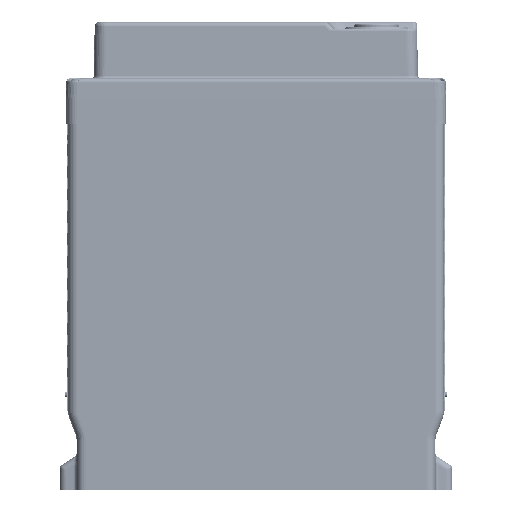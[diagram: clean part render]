
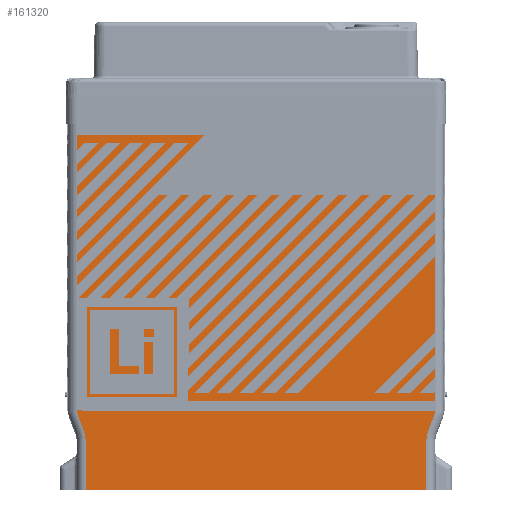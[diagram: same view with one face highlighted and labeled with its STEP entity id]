
A CAD part, left-side view. The second image highlights one B-rep face of the part: STEP entity #161320.
In plain terms, the highlighted planar face has unit normal (-1, 0, 0).
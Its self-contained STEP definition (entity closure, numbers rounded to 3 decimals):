
#125170=DIRECTION('',(0.,0.,-1.));
#125171=VECTOR('',#125170,127.378);
#125172=CARTESIAN_POINT('',(-130.,79.5,-2.));
#125173=LINE('',#125172,#125171);
#125184=DIRECTION('',(0.,-1.,0.));
#125185=VECTOR('',#125184,159.);
#125186=CARTESIAN_POINT('',(-130.,79.5,-2.));
#125187=LINE('',#125186,#125185);
#125191=CARTESIAN_POINT('',(-130.,-73.5,-129.378));
#125192=DIRECTION('',(1.,0.,0.));
#125193=DIRECTION('',(0.,-1.,0.));
#125194=AXIS2_PLACEMENT_3D('',#125191,#125192,#125193);
#125199=DIRECTION('',(0.,0.358,-0.934));
#125200=VECTOR('',#125199,7.221);
#125201=CARTESIAN_POINT('',(-130.,-79.101,-131.528));
#125202=LINE('',#125201,#125200);
#125206=CARTESIAN_POINT('',(-130.,-87.25,-142.39));
#125207=DIRECTION('',(-1.,0.,0.));
#125208=DIRECTION('',(0.,0.934,0.358));
#125209=AXIS2_PLACEMENT_3D('',#125206,#125207,#125208);
#125214=CARTESIAN_POINT('',(-130.,87.25,-142.39));
#125215=DIRECTION('',(-1.,0.,0.));
#125216=DIRECTION('',(0.,-1.,0.));
#125217=AXIS2_PLACEMENT_3D('',#125214,#125215,#125216);
#125222=DIRECTION('',(0.,0.358,0.934));
#125223=VECTOR('',#125222,7.221);
#125224=CARTESIAN_POINT('',(-130.,76.514,-138.269));
#125225=LINE('',#125224,#125223);
#125229=CARTESIAN_POINT('',(-130.,73.5,-129.378));
#125230=DIRECTION('',(1.,0.,0.));
#125231=DIRECTION('',(0.,0.934,-0.358));
#125232=AXIS2_PLACEMENT_3D('',#125229,#125230,#125231);
#125244=DIRECTION('',(0.,0.,1.));
#125245=VECTOR('',#125244,127.378);
#125246=CARTESIAN_POINT('',(-130.,-79.5,-129.378));
#125247=LINE('',#125246,#125245);
#125946=DIRECTION('',(0.,-1.,0.));
#125947=VECTOR('',#125946,151.5);
#125948=CARTESIAN_POINT('',(-130.,75.75,-164.5));
#125949=LINE('',#125948,#125947);
#128891=DIRECTION('',(0.,0.,-1.));
#128892=VECTOR('',#128891,22.11);
#128893=CARTESIAN_POINT('',(-130.,75.75,-142.39));
#128894=LINE('',#128893,#128892);
#128898=DIRECTION('',(0.,0.,1.));
#128899=VECTOR('',#128898,22.11);
#128900=CARTESIAN_POINT('',(-130.,-75.75,-164.5));
#128901=LINE('',#128900,#128899);
#147144=CARTESIAN_POINT('',(-130.,-79.5,-2.));
#147145=VERTEX_POINT('',#147144);
#147146=CARTESIAN_POINT('',(-130.,79.5,-2.));
#147147=VERTEX_POINT('',#147146);
#148844=CARTESIAN_POINT('',(-130.,79.5,-129.378));
#148845=VERTEX_POINT('',#148844);
#148846=CARTESIAN_POINT('',(-130.,79.101,-131.528));
#148847=VERTEX_POINT('',#148846);
#148848=CARTESIAN_POINT('',(-130.,-79.5,-129.378));
#148849=VERTEX_POINT('',#148848);
#148850=CARTESIAN_POINT('',(-130.,-79.101,-131.528));
#148851=VERTEX_POINT('',#148850);
#148852=CARTESIAN_POINT('',(-130.,-76.514,-138.269));
#148853=VERTEX_POINT('',#148852);
#148854=CARTESIAN_POINT('',(-130.,-75.75,-142.39));
#148855=VERTEX_POINT('',#148854);
#148856=CARTESIAN_POINT('',(-130.,-75.75,-164.5));
#148857=VERTEX_POINT('',#148856);
#148858=CARTESIAN_POINT('',(-130.,75.75,-164.5));
#148859=VERTEX_POINT('',#148858);
#148860=CARTESIAN_POINT('',(-130.,75.75,-142.39));
#148861=VERTEX_POINT('',#148860);
#148862=CARTESIAN_POINT('',(-130.,76.514,-138.269));
#148863=VERTEX_POINT('',#148862);
#161292=CARTESIAN_POINT('',(-130.,0.,0.));
#161293=DIRECTION('',(1.,0.,0.));
#161294=DIRECTION('',(0.,1.,0.));
#161295=AXIS2_PLACEMENT_3D('',#161292,#161293,#161294);
#161296=PLANE('',#161295);
#161297=ORIENTED_EDGE('',*,*,#151605,.T.);
#161299=ORIENTED_EDGE('',*,*,#161298,.F.);
#161301=ORIENTED_EDGE('',*,*,#161300,.T.);
#161303=ORIENTED_EDGE('',*,*,#161302,.T.);
#161305=ORIENTED_EDGE('',*,*,#161304,.T.);
#161307=ORIENTED_EDGE('',*,*,#161306,.F.);
#161309=ORIENTED_EDGE('',*,*,#161308,.F.);
#161311=ORIENTED_EDGE('',*,*,#161310,.F.);
#161313=ORIENTED_EDGE('',*,*,#161312,.T.);
#161315=ORIENTED_EDGE('',*,*,#161314,.T.);
#161316=ORIENTED_EDGE('',*,*,#161272,.T.);
#161317=ORIENTED_EDGE('',*,*,#161285,.F.);
#161318=EDGE_LOOP('',(#161297,#161299,#161301,#161303,#161305,#161307,#161309,
#161311,#161313,#161315,#161316,#161317));
#161319=FACE_OUTER_BOUND('',#161318,.F.);
#125195=CIRCLE('',#125194,6.);
#125210=CIRCLE('',#125209,11.5);
#125218=CIRCLE('',#125217,11.5);
#125233=CIRCLE('',#125232,6.);
#151605=EDGE_CURVE('',#147147,#147145,#125187,.T.);
#161272=EDGE_CURVE('',#148847,#148845,#125233,.T.);
#161285=EDGE_CURVE('',#147147,#148845,#125173,.T.);
#161298=EDGE_CURVE('',#148849,#147145,#125247,.T.);
#161300=EDGE_CURVE('',#148849,#148851,#125195,.T.);
#161302=EDGE_CURVE('',#148851,#148853,#125202,.T.);
#161304=EDGE_CURVE('',#148853,#148855,#125210,.T.);
#161306=EDGE_CURVE('',#148857,#148855,#128901,.T.);
#161308=EDGE_CURVE('',#148859,#148857,#125949,.T.);
#161310=EDGE_CURVE('',#148861,#148859,#128894,.T.);
#161312=EDGE_CURVE('',#148861,#148863,#125218,.T.);
#161314=EDGE_CURVE('',#148863,#148847,#125225,.T.);
#161320=ADVANCED_FACE('',(#161319),#161296,.F.);
